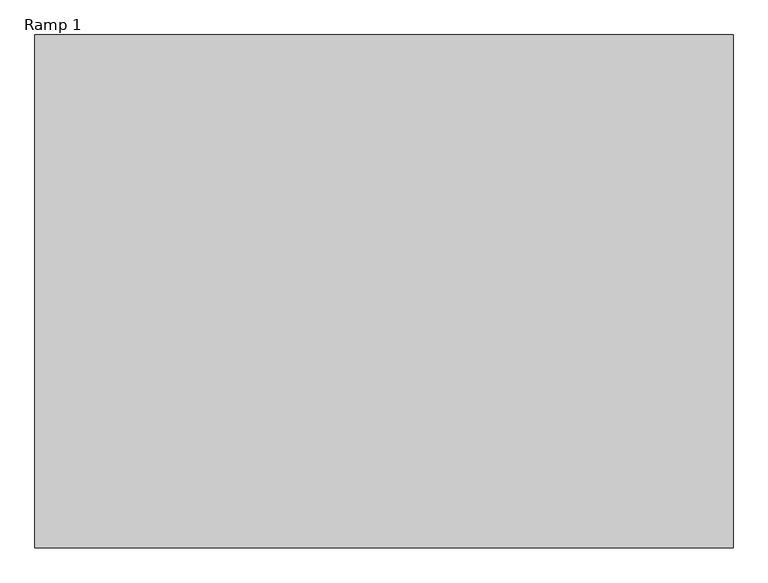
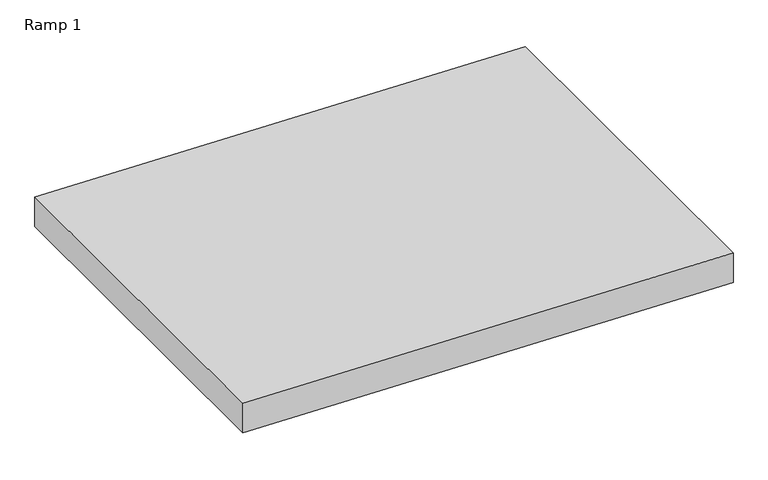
"""IFC4 building model written with IfcOpenShell, lengths in millimetres: ramp geometry, Ramp 1."""

from ifc_helpers import new_model, si_unit, frame, origin, place, context, project, spatial, polyline, outline, extrude, source, transform, mapped, element, save


def ramp_1_bff8a53a(model_context):
    return source(origin(), model_context, "Body", "SweptSolid", [
        extrude(outline(polyline([(2390.0, -1586.8623685), (2450.0, -3949.0670929), (2299.9516208, -3949.0670929), (2239.9516208, -1586.8623685), (2390.0, -1586.8623685)])), frame((0.0, 13412.9996796, 0.0), z_axis=(0.0, 1.0, 0.0), x_axis=(0.0, 0.0, 1.0)), (0.0, 0.0, 1.0), 1737.0),
    ])


if __name__ == "__main__":
    model = new_model("IFC4")
    model_context = context("Model", 3, world=origin())
    ifc_project = project(units=[si_unit("LENGTHUNIT", "METRE", prefix="MILLI")], contexts=[model_context])
    site = spatial("IfcSite", under=ifc_project)
    building = spatial("IfcBuilding", under=site)
    placement = place(None, origin())
    ramp_1_shape = ramp_1_bff8a53a(model_context)
    element("IfcRamp", 1, ObjectType="Ramp 1", at=placement, inside=building, context=model_context, shape_type="MappedRepresentation", body=[
        mapped(ramp_1_shape, transform((0.0, 0.0, 0.0), x_axis=(1.0, 0.0, 0.0), y_axis=(0.0, 1.0, 0.0), z_axis=(0.0, 0.0, 1.0))),
    ])
    save(model, "model.ifc")
